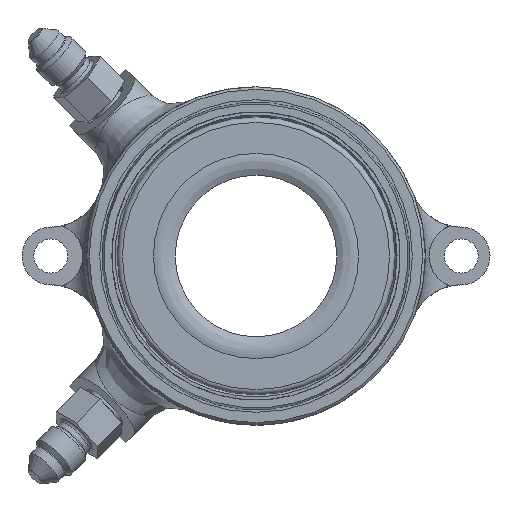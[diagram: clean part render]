
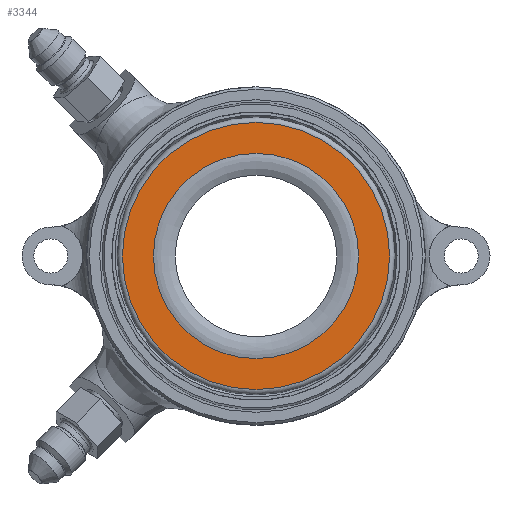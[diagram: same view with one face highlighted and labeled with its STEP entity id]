
A CAD part, left-side view. The second image highlights one B-rep face of the part: STEP entity #3344.
In plain terms, the highlighted planar face has unit normal (-1, 0, 0).
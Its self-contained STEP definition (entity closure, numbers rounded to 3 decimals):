
#338=PLANE('',#3492);
#419=ORIENTED_EDGE('',*,*,#1103,.T.);
#420=ORIENTED_EDGE('',*,*,#1104,.T.);
#1103=EDGE_CURVE('',#1447,#1447,#1751,.T.);
#1104=EDGE_CURVE('',#1448,#1448,#1752,.T.);
#1447=VERTEX_POINT('',#4273);
#1448=VERTEX_POINT('',#4276);
#1751=CIRCLE('',#3491,19.812);
#1752=CIRCLE('',#3493,26.461);
#1853=EDGE_LOOP('',(#419));
#1854=EDGE_LOOP('',(#420));
#2089=FACE_BOUND('',#1853,.T.);
#2090=FACE_BOUND('',#1854,.T.);
#3344=ADVANCED_FACE('',(#2089,#2090),#338,.T.);
#3491=AXIS2_PLACEMENT_3D('',#4272,#3738,#3739);
#3492=AXIS2_PLACEMENT_3D('',#4274,#3740,#3741);
#3493=AXIS2_PLACEMENT_3D('',#4275,#3742,#3743);
#3738=DIRECTION('',(1.,0.,0.));
#3739=DIRECTION('',(0.,0.,-1.));
#3740=DIRECTION('',(-1.,0.,0.));
#3741=DIRECTION('',(0.,0.,1.));
#3742=DIRECTION('',(-1.,0.,0.));
#3743=DIRECTION('',(0.,0.,1.));
#4272=CARTESIAN_POINT('',(-35.789,0.,0.));
#4273=CARTESIAN_POINT('',(-35.789,0.,-19.812));
#4274=CARTESIAN_POINT('',(-35.789,0.,18.542));
#4275=CARTESIAN_POINT('',(-35.789,0.,0.));
#4276=CARTESIAN_POINT('',(-35.789,0.,26.461));
